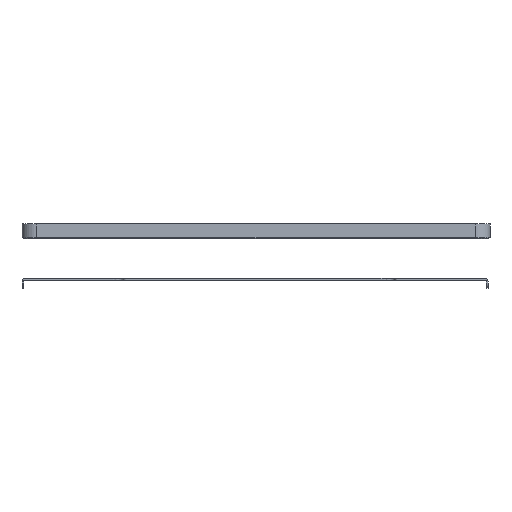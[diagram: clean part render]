
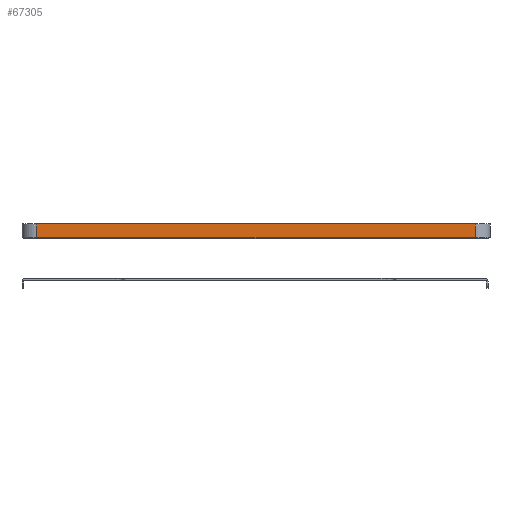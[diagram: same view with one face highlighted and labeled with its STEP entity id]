
A CAD part, left-side view. The second image highlights one B-rep face of the part: STEP entity #67305.
In plain terms, the highlighted planar face has unit normal (-1, 0, 0) as drawn and (1, 0, 0) by its records, which use the part's own axes.
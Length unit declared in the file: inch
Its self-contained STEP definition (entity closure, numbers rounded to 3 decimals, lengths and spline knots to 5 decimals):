
#1984 = CARTESIAN_POINT ( 'NONE',  ( 6.525, -5.555, 0.345 ) ) ;
#2289 = DIRECTION ( 'NONE',  ( 0., -1., 0. ) ) ;
#3876 = EDGE_CURVE ( 'NONE', #52605, #69050, #31718, .T. ) ;
#5562 = DIRECTION ( 'NONE',  ( 0., 0., 1. ) ) ;
#6843 = EDGE_CURVE ( 'NONE', #53597, #52605, #53826, .T. ) ;
#7613 = CARTESIAN_POINT ( 'NONE',  ( 6.525, 5.93, 0.375 ) ) ;
#8254 = VECTOR ( 'NONE', #57641, 39.37008 ) ;
#9491 = VECTOR ( 'NONE', #43801, 39.37008 ) ;
#14346 = VECTOR ( 'NONE', #2289, 39.37008 ) ;
#14874 = CARTESIAN_POINT ( 'NONE',  ( 6.525, 5.93, 0. ) ) ;
#15308 = CARTESIAN_POINT ( 'NONE',  ( 6.525, 5.555, 0.345 ) ) ;
#16440 = EDGE_LOOP ( 'NONE', ( #35887, #50508, #24631, #65263 ) ) ;
#23592 = CARTESIAN_POINT ( 'NONE',  ( 6.525, -5.555, 0.345 ) ) ;
#24570 = EDGE_CURVE ( 'NONE', #67555, #53597, #28603, .T. ) ;
#24631 = ORIENTED_EDGE ( 'NONE', *, *, #6843, .T. ) ;
#26031 = AXIS2_PLACEMENT_3D ( 'NONE', #7613, #61149, #29157 ) ;
#28603 = LINE ( 'NONE', #23592, #14346 ) ;
#29157 = DIRECTION ( 'NONE',  ( 0., -1., 0. ) ) ;
#31718 = LINE ( 'NONE', #14874, #8254 ) ;
#33039 = CARTESIAN_POINT ( 'NONE',  ( 6.525, -5.555, 0.375 ) ) ;
#35630 = CARTESIAN_POINT ( 'NONE',  ( 6.525, -5.555, 0. ) ) ;
#35887 = ORIENTED_EDGE ( 'NONE', *, *, #37836, .T. ) ;
#37836 = EDGE_CURVE ( 'NONE', #69050, #67555, #64780, .T. ) ;
#43603 = FACE_OUTER_BOUND ( 'NONE', #16440, .T. ) ;
#43801 = DIRECTION ( 'NONE',  ( 0., 0., -1. ) ) ;
#50508 = ORIENTED_EDGE ( 'NONE', *, *, #24570, .T. ) ;
#50545 = VECTOR ( 'NONE', #5562, 39.37008 ) ;
#52605 = VERTEX_POINT ( 'NONE', #35630 ) ;
#53597 = VERTEX_POINT ( 'NONE', #1984 ) ;
#53826 = LINE ( 'NONE', #33039, #9491 ) ;
#57641 = DIRECTION ( 'NONE',  ( 0., 1., 0. ) ) ;
#61149 = DIRECTION ( 'NONE',  ( -1., 0., 0. ) ) ;
#63638 = CARTESIAN_POINT ( 'NONE',  ( 6.525, 5.555, 0. ) ) ;
#64239 = CARTESIAN_POINT ( 'NONE',  ( 6.525, 5.555, 0.375 ) ) ;
#64780 = LINE ( 'NONE', #64239, #50545 ) ;
#65263 = ORIENTED_EDGE ( 'NONE', *, *, #3876, .T. ) ;
#66302 = PLANE ( 'NONE',  #26031 ) ;
#67305 = ADVANCED_FACE ( 'NONE', ( #43603 ), #66302, .F. ) ;
#67555 = VERTEX_POINT ( 'NONE', #15308 ) ;
#69050 = VERTEX_POINT ( 'NONE', #63638 ) ;
